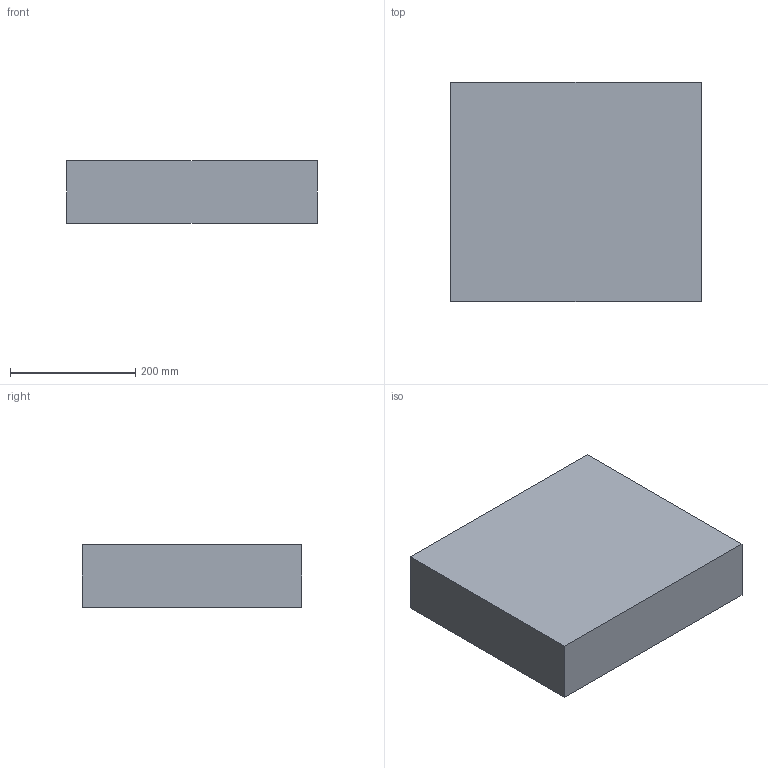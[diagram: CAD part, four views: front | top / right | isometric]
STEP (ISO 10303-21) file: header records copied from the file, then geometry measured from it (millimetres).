
FILE_DESCRIPTION(/* description */ (''),/* implementation_level */ '2;1');
FILE_NAME(/* name */ 'EG Plan 200.stp',/* time_stamp */ '2024-09-27T11:18:03+02:00',/* author */ ('d.streicher'),/* organization */ (''),/* preprocessor_version */ 'ST-DEVELOPER v20',/* originating_system */ 'Autodesk Inventor 2025',/* authorisation */ '');
FILE_SCHEMA (('AUTOMOTIVE_DESIGN { 1 0 10303 214 3 1 1 }'));
Length unit declared in the file: millimetre
Products named in the file (1): EG Plan 200
Bounding box: 400 x 350 x 100 mm (x, y, z)
Volume: 3226171.9 mm3; surface area: 657285.5 mm2
Topology: 1 solids, 1 shells, 24 faces, 60 edges, 40 vertices
Faces by surface type: plane 16, cylinder 8
Full cylindrical faces by diameter (mm): 3 x4
Entity records: 812 total; most frequent: DIRECTION 126, CARTESIAN_POINT 125, ORIENTED_EDGE 120, EDGE_CURVE 60, LINE 44, VECTOR 44, AXIS2_PLACEMENT_3D 41, VERTEX_POINT 40
